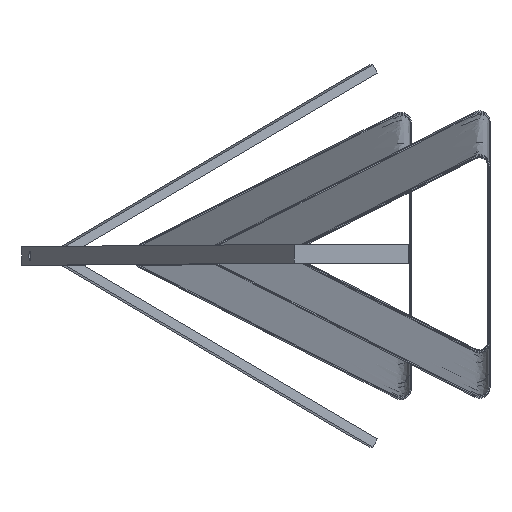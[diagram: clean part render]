
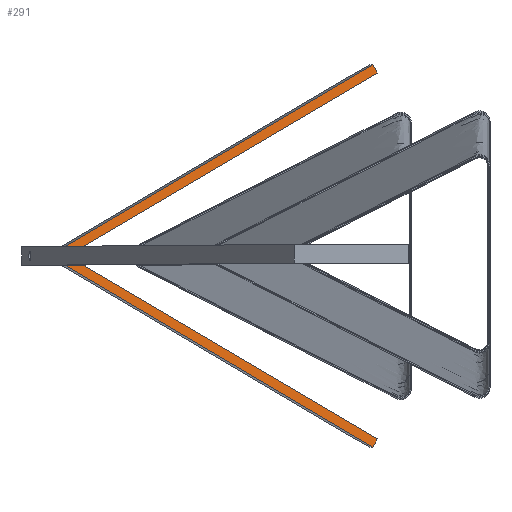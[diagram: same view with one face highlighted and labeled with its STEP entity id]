
A CAD part, top view. The second image highlights one B-rep face of the part: STEP entity #291.
In plain terms, the highlighted planar face has unit normal (0.208, 0, 0.978).
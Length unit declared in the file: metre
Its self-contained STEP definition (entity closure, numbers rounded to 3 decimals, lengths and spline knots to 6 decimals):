
#291 = ADVANCED_FACE( '', ( #375 ), #376, .T. );
#375 = FACE_OUTER_BOUND( '', #516, .T. );
#376 = PLANE( '', #517 );
#516 = EDGE_LOOP( '', ( #2439, #2440, #2441, #2442, #2443, #2444, #2445 ) );
#517 = AXIS2_PLACEMENT_3D( '', #2446, #2447, #2448 );
#2439 = ORIENTED_EDGE( '', *, *, #4445, .F. );
#2440 = ORIENTED_EDGE( '', *, *, #4420, .F. );
#2441 = ORIENTED_EDGE( '', *, *, #4454, .F. );
#2442 = ORIENTED_EDGE( '', *, *, #4452, .F. );
#2443 = ORIENTED_EDGE( '', *, *, #4449, .F. );
#2444 = ORIENTED_EDGE( '', *, *, #4409, .F. );
#2445 = ORIENTED_EDGE( '', *, *, #4446, .F. );
#2446 = CARTESIAN_POINT( '', ( 0.118008, -0.19559, 0.013058 ) );
#2447 = DIRECTION( '', ( 0.208, 0., 0.978 ) );
#2448 = DIRECTION( '', ( 0.978, 0., -0.208 ) );
#4409 = EDGE_CURVE( '', #4560, #4556, #4562, .T. );
#4420 = EDGE_CURVE( '', #4580, #4576, #4582, .T. );
#4445 = EDGE_CURVE( '', #4576, #4620, #4622, .T. );
#4446 = EDGE_CURVE( '', #4620, #4560, #4623, .T. );
#4449 = EDGE_CURVE( '', #4556, #4625, #4628, .T. );
#4452 = EDGE_CURVE( '', #4625, #4630, #4633, .T. );
#4454 = EDGE_CURVE( '', #4630, #4580, #4635, .T. );
#4556 = VERTEX_POINT( '', #4805 );
#4560 = VERTEX_POINT( '', #4811 );
#4562 = LINE( '', #4814, #4815 );
#4576 = VERTEX_POINT( '', #4836 );
#4580 = VERTEX_POINT( '', #4842 );
#4582 = LINE( '', #4845, #4846 );
#4620 = VERTEX_POINT( '', #4905 );
#4622 = LINE( '', #4908, #4909 );
#4623 = LINE( '', #4910, #4911 );
#4625 = VERTEX_POINT( '', #4913 );
#4628 = LINE( '', #4918, #4919 );
#4630 = VERTEX_POINT( '', #4921 );
#4633 = LINE( '', #4926, #4927 );
#4635 = LINE( '', #4930, #4931 );
#4805 = CARTESIAN_POINT( '', ( -0.22318, 0.00575, 0.085588 ) );
#4811 = CARTESIAN_POINT( '', ( -0.22318, -0.00575, 0.085587 ) );
#4814 = CARTESIAN_POINT( '', ( -0.22318, -0.00575, 0.085587 ) );
#4815 = VECTOR( '', #5834, 1. );
#4836 = CARTESIAN_POINT( '', ( 0.118008, -0.19559, 0.013058 ) );
#4842 = CARTESIAN_POINT( '', ( -0.213358, 0., 0.0835 ) );
#4845 = CARTESIAN_POINT( '', ( -0.213358, 0., 0.0835 ) );
#4846 = VECTOR( '', #5845, 1. );
#4905 = CARTESIAN_POINT( '', ( 0.113118, -0.20425, 0.014097 ) );
#4908 = CARTESIAN_POINT( '', ( 0.118008, -0.19559, 0.013058 ) );
#4909 = VECTOR( '', #5874, 1. );
#4910 = CARTESIAN_POINT( '', ( 0.113118, -0.20425, 0.014097 ) );
#4911 = VECTOR( '', #5875, 1. );
#4913 = CARTESIAN_POINT( '', ( 0.113118, 0.20425, 0.014097 ) );
#4918 = CARTESIAN_POINT( '', ( -0.22318, 0.00575, 0.085587 ) );
#4919 = VECTOR( '', #5878, 1. );
#4921 = CARTESIAN_POINT( '', ( 0.118008, 0.19559, 0.013058 ) );
#4926 = CARTESIAN_POINT( '', ( 0.113118, 0.20425, 0.014097 ) );
#4927 = VECTOR( '', #5881, 1. );
#4930 = CARTESIAN_POINT( '', ( 0.118008, 0.19559, 0.013058 ) );
#4931 = VECTOR( '', #5883, 1. );
#5834 = DIRECTION( '', ( 0., 1., 0. ) );
#5845 = DIRECTION( '', ( 0.847, -0.5, -0.18 ) );
#5874 = DIRECTION( '', ( -0.489, -0.866, 0.104 ) );
#5875 = DIRECTION( '', ( -0.847, 0.5, 0.18 ) );
#5878 = DIRECTION( '', ( 0.847, 0.5, -0.18 ) );
#5881 = DIRECTION( '', ( 0.489, -0.866, -0.104 ) );
#5883 = DIRECTION( '', ( -0.847, -0.5, 0.18 ) );
